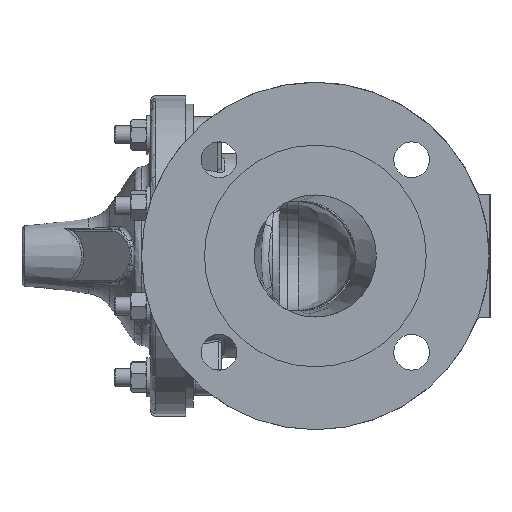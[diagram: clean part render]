
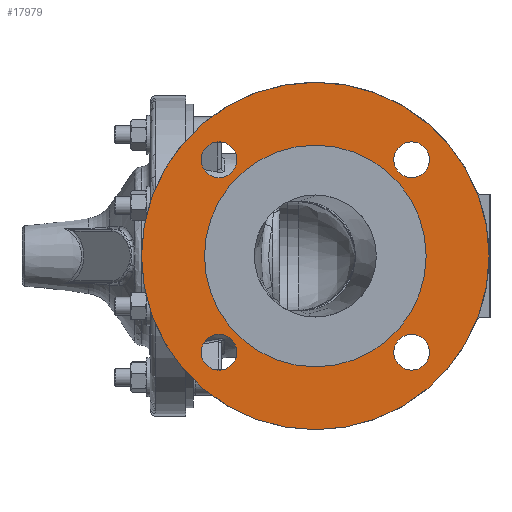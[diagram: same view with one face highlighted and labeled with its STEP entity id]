
A CAD part, left-side view. The second image highlights one B-rep face of the part: STEP entity #17979.
In plain terms, the highlighted planar face has unit normal (-1, 0, 0).
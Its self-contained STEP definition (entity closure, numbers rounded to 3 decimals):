
#1597=FACE_BOUND('',#3696,.T.);
#1598=FACE_BOUND('',#3697,.T.);
#1599=FACE_BOUND('',#3698,.T.);
#1600=FACE_BOUND('',#3699,.T.);
#1601=FACE_BOUND('',#3700,.T.);
#1737=PLANE('',#19493);
#2548=FACE_OUTER_BOUND('',#3695,.T.);
#3695=EDGE_LOOP('',(#14661));
#3696=EDGE_LOOP('',(#14662));
#3697=EDGE_LOOP('',(#14663));
#3698=EDGE_LOOP('',(#14664));
#3699=EDGE_LOOP('',(#14665));
#3700=EDGE_LOOP('',(#14666));
#6839=CIRCLE('',#19269,92.5);
#6899=CIRCLE('',#19366,9.5);
#6901=CIRCLE('',#19369,9.5);
#6903=CIRCLE('',#19372,9.5);
#6905=CIRCLE('',#19375,9.5);
#6964=CIRCLE('',#19491,59.);
#8142=VERTEX_POINT('',#35765);
#8243=VERTEX_POINT('',#38004);
#8245=VERTEX_POINT('',#38010);
#8247=VERTEX_POINT('',#38016);
#8249=VERTEX_POINT('',#38022);
#8333=VERTEX_POINT('',#40417);
#10260=EDGE_CURVE('',#8142,#8142,#6839,.T.);
#10419=EDGE_CURVE('',#8243,#8243,#6899,.T.);
#10422=EDGE_CURVE('',#8245,#8245,#6901,.T.);
#10425=EDGE_CURVE('',#8247,#8247,#6903,.T.);
#10428=EDGE_CURVE('',#8249,#8249,#6905,.T.);
#10594=EDGE_CURVE('',#8333,#8333,#6964,.T.);
#14661=ORIENTED_EDGE('',*,*,#10260,.F.);
#14662=ORIENTED_EDGE('',*,*,#10419,.T.);
#14663=ORIENTED_EDGE('',*,*,#10422,.T.);
#14664=ORIENTED_EDGE('',*,*,#10425,.T.);
#14665=ORIENTED_EDGE('',*,*,#10428,.T.);
#14666=ORIENTED_EDGE('',*,*,#10594,.T.);
#17979=ADVANCED_FACE('',(#2548,#1597,#1598,#1599,#1600,#1601),#1737,.T.);
#19269=AXIS2_PLACEMENT_3D('',#35767,#21891,#21892);
#19366=AXIS2_PLACEMENT_3D('',#38005,#22118,#22119);
#19369=AXIS2_PLACEMENT_3D('',#38011,#22125,#22126);
#19372=AXIS2_PLACEMENT_3D('',#38017,#22132,#22133);
#19375=AXIS2_PLACEMENT_3D('',#38023,#22139,#22140);
#19491=AXIS2_PLACEMENT_3D('',#40418,#22405,#22406);
#19493=AXIS2_PLACEMENT_3D('',#40422,#22410,#22411);
#21891=DIRECTION('center_axis',(1.,0.,0.));
#21892=DIRECTION('ref_axis',(0.,0.,
1.));
#22118=DIRECTION('center_axis',(1.,0.,0.));
#22119=DIRECTION('ref_axis',(0.,0.,
1.));
#22125=DIRECTION('center_axis',(1.,0.,0.));
#22126=DIRECTION('ref_axis',(0.,-1.,0.));
#22132=DIRECTION('center_axis',(1.,0.,0.));
#22133=DIRECTION('ref_axis',(0.,1.,0.));
#22139=DIRECTION('center_axis',(1.,0.,0.));
#22140=DIRECTION('ref_axis',(0.,0.,
-1.));
#22405=DIRECTION('center_axis',(1.,0.,0.));
#22406=DIRECTION('ref_axis',(0.,0.,
1.));
#22410=DIRECTION('center_axis',(-1.,0.,0.));
#22411=DIRECTION('ref_axis',(0.,0.,
1.));
#35765=CARTESIAN_POINT('',(-142.,-68.85,-92.5));
#35767=CARTESIAN_POINT('Origin',(-142.,-68.85,0.));
#38004=CARTESIAN_POINT('',(-142.,-17.585,-60.765));
#38005=CARTESIAN_POINT('Origin',(-142.,-17.585,-51.265));
#38010=CARTESIAN_POINT('',(-142.,-8.085,51.265));
#38011=CARTESIAN_POINT('Origin',(-142.,-17.585,51.265));
#38016=CARTESIAN_POINT('',(-142.,-129.615,-51.265));
#38017=CARTESIAN_POINT('Origin',(-142.,-120.115,-51.265));
#38022=CARTESIAN_POINT('',(-142.,-120.115,60.765));
#38023=CARTESIAN_POINT('Origin',(-142.,-120.115,51.265));
#40417=CARTESIAN_POINT('',(-142.,-68.85,-59.));
#40418=CARTESIAN_POINT('Origin',(-142.,-68.85,0.));
#40422=CARTESIAN_POINT('Origin',(-142.,-68.85,0.));
